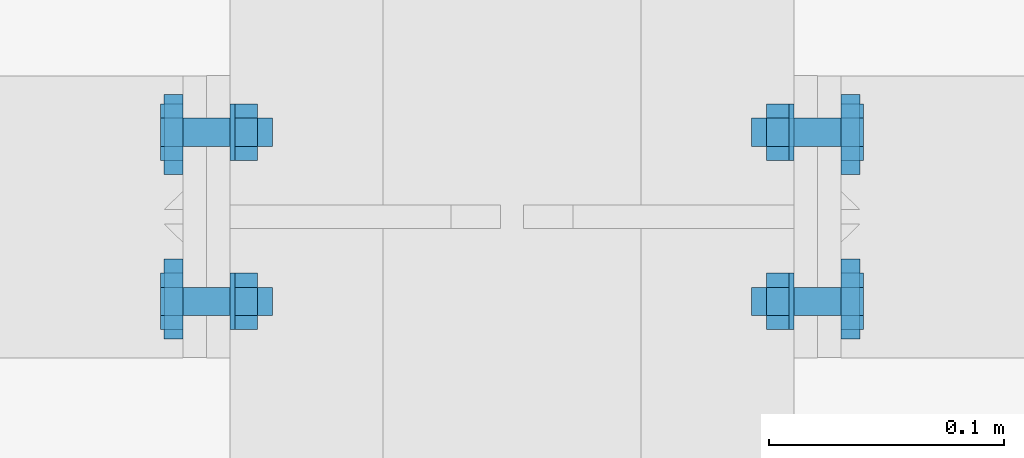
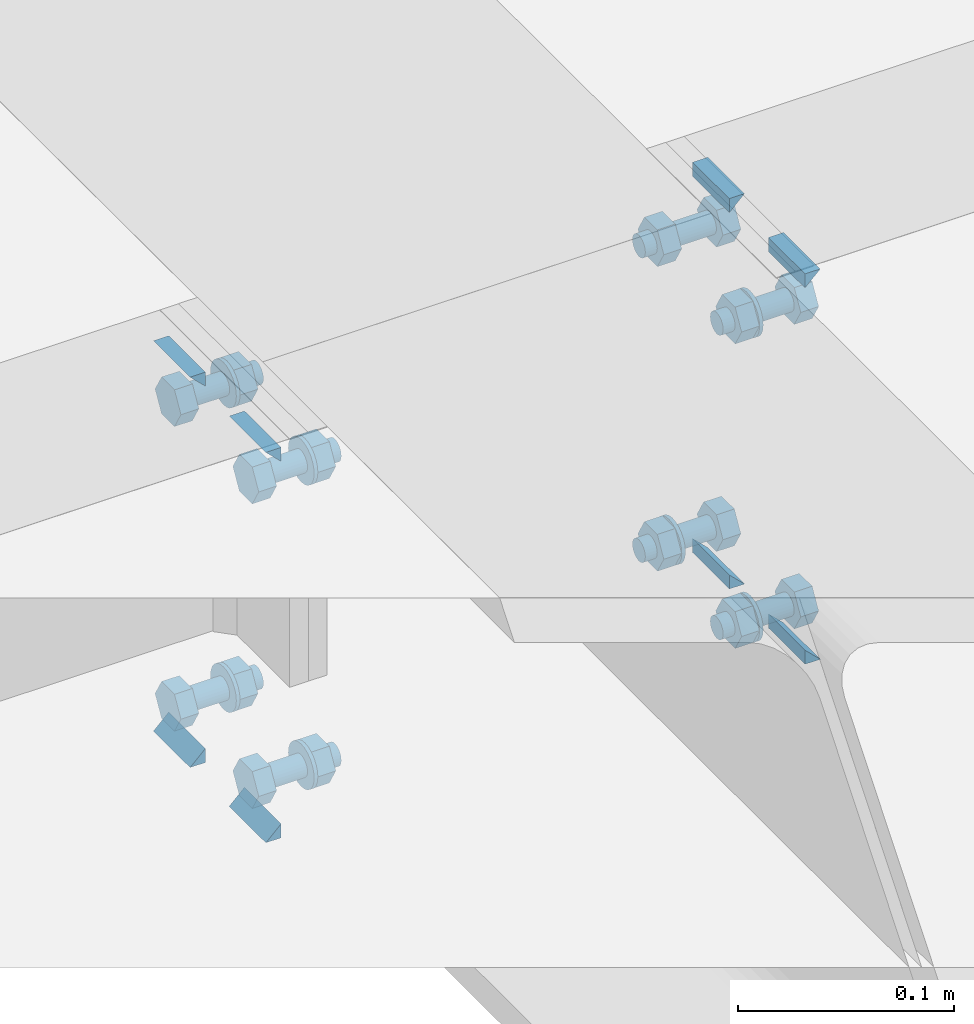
# One storey, part 31 of 66: 31 mechanical fasteners, 16 fasteners.
"""IFC4 building model written with IfcOpenShell, lengths in metres."""

from ifc_helpers import new_model, si_unit, frame, origin_with_axes, place, context, project, spatial, polyline, outline, extrude, type_object, element, save


model = new_model("IFC4")

# Units and contexts
model_context = context("Model", 3, precision=1e-05, world=origin_with_axes())
ifc_project = project(units=[si_unit("LENGTHUNIT", "METRE"), si_unit("AREAUNIT", "SQUARE_METRE"), si_unit("VOLUMEUNIT", "CUBIC_METRE"), si_unit("MASSUNIT", "GRAM", prefix="KILO"), si_unit("TIMEUNIT", "SECOND"), si_unit("PLANEANGLEUNIT", "RADIAN"), si_unit("SOLIDANGLEUNIT", "STERADIAN"), si_unit("THERMODYNAMICTEMPERATUREUNIT", "DEGREE_CELSIUS")], contexts=[model_context])

# Site, building, storey
placement_1 = place(None, origin_with_axes())
site = spatial("IfcSite", under=ifc_project, at=placement_1, Name="Italia", CompositionType="ELEMENT")
building = spatial("IfcBuilding", under=site, at=placement_1, Name="Uffici", CompositionType="ELEMENT")
storey_placement = place(None, frame((0.0, 0.0, 3.299999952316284), z_axis=(0.0, 0.0, 1.0), x_axis=(1.0, 0.0, 0.0)))
storey = spatial("IfcBuildingStorey", under=building, at=storey_placement, Name="Storey 1", CompositionType="ELEMENT", Elevation=3.299999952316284)

# Fasteners
fastener_type_1 = type_object("IfcFastenerType", Name="Collegamento -002_-001", PredefinedType="WELD")
placement_2 = place(placement_1, origin_with_axes())
fastener_1_placement = place(placement_2, origin_with_axes())
element("IfcFastener", 1, at=fastener_1_placement, inside=storey, type_object=fastener_type_1, Name="Collegamento -002_-001", context=model_context, shape_type="SweptSolid", body=[
    extrude(outline(polyline([(0.0, 0.0), (-0.00817347, 0.00792813), (0.0, 0.00792813), (0.0, 0.0)])), frame((3.06505, 1.77862, 3.28232), z_axis=(0.0, -1.0, 0.0), x_axis=(1.0, 0.0, 0.0)), (0.0, 0.0, 1.0), 0.0339999),
])
fastener_type_2 = type_object("IfcFastenerType", Name="Collegamento -002_-001", PredefinedType="WELD")
fastener_2_placement = place(placement_2, origin_with_axes())
element("IfcFastener", 2, at=fastener_2_placement, inside=storey, type_object=fastener_type_2, Name="Collegamento -002_-001", context=model_context, shape_type="SweptSolid", body=[
    extrude(outline(polyline([(0.0, 0.0), (0.00817347, -0.00792813), (0.0, -0.00792813), (0.0, 0.0)])), frame((3.06505, 1.74462, 3.07768), z_axis=(0.0, 1.0, 0.0), x_axis=(-1.0, 0.0, 0.0)), (0.0, 0.0, 1.0), 0.0339999),
])
fastener_type_3 = type_object("IfcFastenerType", Name="Collegamento -002_-001", PredefinedType="WELD")
fastener_3_placement = place(placement_2, origin_with_axes())
element("IfcFastener", 3, at=fastener_3_placement, inside=storey, type_object=fastener_type_3, Name="Collegamento -002_-001", context=model_context, shape_type="SweptSolid", body=[
    extrude(outline(polyline([(0.0, 0.0), (0.00817347, -0.00792813), (0.0, -0.00792813), (0.0, 0.0)])), frame((3.06505, 1.81472, 3.07768), z_axis=(0.0, 1.0, 0.0), x_axis=(-1.0, 0.0, 0.0)), (0.0, 0.0, 1.0), 0.0339999),
])
fastener_type_4 = type_object("IfcFastenerType", Name="Collegamento -002_-001", PredefinedType="WELD")
fastener_4_placement = place(placement_2, origin_with_axes())
element("IfcFastener", 4, at=fastener_4_placement, inside=storey, type_object=fastener_type_4, Name="Collegamento -002_-001", context=model_context, shape_type="SweptSolid", body=[
    extrude(outline(polyline([(0.0, 0.0), (-0.00817347, 0.00792813), (0.0, 0.00792813), (0.0, 0.0)])), frame((3.06505, 1.84872, 3.28232), z_axis=(0.0, -1.0, 0.0), x_axis=(1.0, 0.0, 0.0)), (0.0, 0.0, 1.0), 0.0339999),
])
fastener_type_5 = type_object("IfcFastenerType", Name="Collegamento -002_-001", PredefinedType="WELD")
fastener_5_placement = place(placement_2, origin_with_axes())
element("IfcFastener", 5, at=fastener_5_placement, inside=storey, type_object=fastener_type_5, Name="Collegamento -002_-001", context=model_context, shape_type="SweptSolid", body=[
    extrude(outline(polyline([(0.0, 0.0), (-0.00817347, 0.00792813), (0.0, 0.00792813), (0.0, 0.0)])), frame((3.06505, 1.77862, 3.28232), z_axis=(0.0, -1.0, 0.0), x_axis=(1.0, 0.0, 0.0)), (0.0, 0.0, 1.0), 0.0339999),
])
fastener_type_6 = type_object("IfcFastenerType", Name="Collegamento -002_-001", PredefinedType="WELD")
fastener_6_placement = place(placement_2, origin_with_axes())
element("IfcFastener", 6, at=fastener_6_placement, inside=storey, type_object=fastener_type_6, Name="Collegamento -002_-001", context=model_context, shape_type="SweptSolid", body=[
    extrude(outline(polyline([(0.0, 0.0), (0.00817347, -0.00792813), (0.0, -0.00792813), (0.0, 0.0)])), frame((3.06505, 1.74462, 3.07768), z_axis=(0.0, 1.0, 0.0), x_axis=(-1.0, 0.0, 0.0)), (0.0, 0.0, 1.0), 0.0339999),
])
fastener_type_7 = type_object("IfcFastenerType", Name="Collegamento -002_-001", PredefinedType="WELD")
fastener_7_placement = place(placement_2, origin_with_axes())
element("IfcFastener", 7, at=fastener_7_placement, inside=storey, type_object=fastener_type_7, Name="Collegamento -002_-001", context=model_context, shape_type="SweptSolid", body=[
    extrude(outline(polyline([(0.0, 0.0), (0.00817347, -0.00792813), (0.0, -0.00792813), (0.0, 0.0)])), frame((3.06505, 1.81472, 3.07768), z_axis=(0.0, 1.0, 0.0), x_axis=(-1.0, 0.0, 0.0)), (0.0, 0.0, 1.0), 0.0339999),
])
fastener_type_8 = type_object("IfcFastenerType", Name="Collegamento -002_-001", PredefinedType="WELD")
fastener_8_placement = place(placement_2, origin_with_axes())
element("IfcFastener", 8, at=fastener_8_placement, inside=storey, type_object=fastener_type_8, Name="Collegamento -002_-001", context=model_context, shape_type="SweptSolid", body=[
    extrude(outline(polyline([(0.0, 0.0), (-0.00817347, 0.00792813), (0.0, 0.00792813), (0.0, 0.0)])), frame((3.06505, 1.84872, 3.28232), z_axis=(0.0, -1.0, 0.0), x_axis=(1.0, 0.0, 0.0)), (0.0, 0.0, 1.0), 0.0339999),
])

# Mechanical fasteners
mechanical_fastener_type_1 = type_object("IfcMechanicalFastenerType", Name="Collegamento -002_-001", PredefinedType="BOLT")
mechanical_fastener_1_placement = place(placement_2, origin_with_axes())
element("IfcMechanicalFastener", 9, at=mechanical_fastener_1_placement, inside=storey, type_object=mechanical_fastener_type_1, Name="Collegamento -002_-001", NominalDiameter=0.0119999, context=model_context, shape_type="SweptSolid", body=[
    extrude(outline(polyline([(0.0, 0.0), (-0.0120001, 0.0), (-0.018, 0.0103924), (-0.0120001, 0.0207846), (0.0, 0.0207846), (0.00599992, 0.0103924), (0.0, 0.0)])), frame((3.065, 1.82667, 3.08361), z_axis=(-1.0, 0.0, 0.0), x_axis=(0.0, -1.0, 0.0)), (0.0, 0.0, 1.0), 0.00959992),
])
mechanical_fastener_type_2 = type_object("IfcMechanicalFastenerType", Name="Collegamento -002_-001", PredefinedType="BOLT")
mechanical_fastener_2_placement = place(placement_2, origin_with_axes())
element("IfcMechanicalFastener", 10, at=mechanical_fastener_2_placement, inside=storey, type_object=mechanical_fastener_type_2, Name="Collegamento -002_-001", NominalDiameter=0.012, context=model_context, shape_type="SweptSolid", body=[
    extrude(outline(polyline([(0.0, 0.0), (-0.000204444, -0.00155282), (-0.000803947, -0.00300002), (-0.00175738, -0.00424266), (-0.00300002, -0.00519609), (-0.0044471, -0.00579548), (-0.00600004, -0.00600004), (-0.00755298, -0.00579548), (-0.00900006, -0.00519609), (-0.0102427, -0.00424266), (-0.0111961, -0.00300002), (-0.0117956, -0.00155282), (-0.0120001, 0.0), (-0.0117956, 0.00155282), (-0.0111961, 0.00300002), (-0.0102427, 0.00424266), (-0.00900006, 0.00519609), (-0.00755298, 0.00579548), (-0.00600004, 0.00600004), (-0.0044471, 0.00579548), (-0.00300002, 0.00519609), (-0.00175738, 0.00424266), (-0.000803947, 0.00300002), (-0.000204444, 0.00155282), (0.0, 0.0)])), frame((3.103, 1.82667, 3.094), z_axis=(-1.0, 0.0, 0.0), x_axis=(0.0, -1.0, 0.0)), (0.0, 0.0, 1.0), 0.0379999),
])
mechanical_fastener_type_3 = type_object("IfcMechanicalFastenerType", Name="Collegamento -002_-001", PredefinedType="BOLT")
mechanical_fastener_3_placement = place(placement_2, origin_with_axes())
element("IfcMechanicalFastener", 11, at=mechanical_fastener_3_placement, inside=storey, type_object=mechanical_fastener_type_3, Name="Collegamento -002_-001", NominalDiameter=0.0119999, context=model_context, shape_type="SweptSolid", body=[
    extrude(outline(polyline([(0.0, 0.0), (-0.0120001, 0.0), (-0.018, 0.0103924), (-0.0120001, 0.0207846), (0.0, 0.0207846), (0.00599992, 0.0103924), (0.0, 0.0)])), frame((3.0966, 1.82667, 3.08361), z_axis=(-1.0, 0.0, 0.0), x_axis=(0.0, -1.0, 0.0)), (0.0, 0.0, 1.0), 0.00959992),
])
mechanical_fastener_type_4 = type_object("IfcMechanicalFastenerType", Name="Collegamento -002_-001", PredefinedType="BOLT")
mechanical_fastener_4_placement = place(placement_2, origin_with_axes())
element("IfcMechanicalFastener", 12, at=mechanical_fastener_4_placement, inside=storey, type_object=mechanical_fastener_type_4, Name="Collegamento -002_-001", NominalDiameter=0.024, context=model_context, shape_type="SweptSolid", body=[
    extrude(outline(polyline([(0.0, 0.0), (-0.000408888, -0.00310588), (-0.00160766, -0.00600004), (-0.00351465, -0.00848532), (-0.00599992, -0.0103922), (-0.00889409, -0.0115912), (-0.012, -0.0120001), (-0.0151058, -0.0115912), (-0.018, -0.0103922), (-0.0204853, -0.00848532), (-0.0223923, -0.00600004), (-0.023591, -0.00310588), (-0.0239999, 0.0), (-0.023591, 0.00310588), (-0.0223923, 0.00600004), (-0.0204853, 0.00848532), (-0.018, 0.0103922), (-0.0151058, 0.0115912), (-0.012, 0.0120001), (-0.00889409, 0.0115912), (-0.00599992, 0.0103922), (-0.00351465, 0.00848532), (-0.00160766, 0.00600004), (-0.000408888, 0.00310588), (0.0, 0.0)])), frame((3.087, 1.82067, 3.094), z_axis=(-1.0, 0.0, 0.0), x_axis=(0.0, -1.0, 0.0)), (0.0, 0.0, 1.0), 0.00200009),
])
mechanical_fastener_type_5 = type_object("IfcMechanicalFastenerType", Name="Collegamento -002_-001", PredefinedType="BOLT")
mechanical_fastener_5_placement = place(placement_2, origin_with_axes())
element("IfcMechanicalFastener", 13, at=mechanical_fastener_5_placement, inside=storey, type_object=mechanical_fastener_type_5, Name="Collegamento -002_-001", NominalDiameter=0.0119999, context=model_context, shape_type="SweptSolid", body=[
    extrude(outline(polyline([(0.0, 0.0), (-0.0120001, 0.0), (-0.018, 0.0103924), (-0.0120001, 0.0207846), (0.0, 0.0207846), (0.00599992, 0.0103924), (0.0, 0.0)])), frame((3.065, 1.75467, 3.08361), z_axis=(-1.0, 0.0, 0.0), x_axis=(0.0, -1.0, 0.0)), (0.0, 0.0, 1.0), 0.00959992),
])
mechanical_fastener_type_6 = type_object("IfcMechanicalFastenerType", Name="Collegamento -002_-001", PredefinedType="BOLT")
mechanical_fastener_6_placement = place(placement_2, origin_with_axes())
element("IfcMechanicalFastener", 14, at=mechanical_fastener_6_placement, inside=storey, type_object=mechanical_fastener_type_6, Name="Collegamento -002_-001", NominalDiameter=0.012, context=model_context, shape_type="SweptSolid", body=[
    extrude(outline(polyline([(0.0, 0.0), (-0.000204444, -0.00155282), (-0.000803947, -0.00300002), (-0.00175738, -0.00424266), (-0.00300002, -0.00519609), (-0.0044471, -0.00579548), (-0.00600004, -0.00600004), (-0.00755298, -0.00579548), (-0.00900006, -0.00519609), (-0.0102427, -0.00424266), (-0.0111961, -0.00300002), (-0.0117956, -0.00155282), (-0.0120001, 0.0), (-0.0117956, 0.00155282), (-0.0111961, 0.00300002), (-0.0102427, 0.00424266), (-0.00900006, 0.00519609), (-0.00755298, 0.00579548), (-0.00600004, 0.00600004), (-0.0044471, 0.00579548), (-0.00300002, 0.00519609), (-0.00175738, 0.00424266), (-0.000803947, 0.00300002), (-0.000204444, 0.00155282), (0.0, 0.0)])), frame((3.103, 1.75467, 3.094), z_axis=(-1.0, 0.0, 0.0), x_axis=(0.0, -1.0, 0.0)), (0.0, 0.0, 1.0), 0.0379999),
])
mechanical_fastener_type_7 = type_object("IfcMechanicalFastenerType", Name="Collegamento -002_-001", PredefinedType="BOLT")
mechanical_fastener_7_placement = place(placement_2, origin_with_axes())
element("IfcMechanicalFastener", 15, at=mechanical_fastener_7_placement, inside=storey, type_object=mechanical_fastener_type_7, Name="Collegamento -002_-001", NominalDiameter=0.0119999, context=model_context, shape_type="SweptSolid", body=[
    extrude(outline(polyline([(0.0, 0.0), (-0.0120001, 0.0), (-0.018, 0.0103924), (-0.0120001, 0.0207846), (0.0, 0.0207846), (0.00599992, 0.0103924), (0.0, 0.0)])), frame((3.0966, 1.75467, 3.08361), z_axis=(-1.0, 0.0, 0.0), x_axis=(0.0, -1.0, 0.0)), (0.0, 0.0, 1.0), 0.00959992),
])
mechanical_fastener_type_8 = type_object("IfcMechanicalFastenerType", Name="Collegamento -002_-001", PredefinedType="BOLT")
mechanical_fastener_8_placement = place(placement_2, origin_with_axes())
element("IfcMechanicalFastener", 16, at=mechanical_fastener_8_placement, inside=storey, type_object=mechanical_fastener_type_8, Name="Collegamento -002_-001", NominalDiameter=0.024, context=model_context, shape_type="SweptSolid", body=[
    extrude(outline(polyline([(0.0, 0.0), (-0.000408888, -0.00310588), (-0.00160766, -0.00600004), (-0.00351465, -0.00848532), (-0.00599992, -0.0103922), (-0.00889409, -0.0115912), (-0.012, -0.0120001), (-0.0151058, -0.0115912), (-0.018, -0.0103922), (-0.0204853, -0.00848532), (-0.0223923, -0.00600004), (-0.023591, -0.00310588), (-0.0239999, 0.0), (-0.023591, 0.00310588), (-0.0223923, 0.00600004), (-0.0204853, 0.00848532), (-0.018, 0.0103922), (-0.0151058, 0.0115912), (-0.012, 0.0120001), (-0.00889409, 0.0115912), (-0.00599992, 0.0103922), (-0.00351465, 0.00848532), (-0.00160766, 0.00600004), (-0.000408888, 0.00310588), (0.0, 0.0)])), frame((3.087, 1.74867, 3.094), z_axis=(-1.0, 0.0, 0.0), x_axis=(0.0, -1.0, 0.0)), (0.0, 0.0, 1.0), 0.00200009),
])
mechanical_fastener_type_9 = type_object("IfcMechanicalFastenerType", Name="Collegamento -002_-001", PredefinedType="BOLT")
mechanical_fastener_9_placement = place(placement_2, origin_with_axes())
element("IfcMechanicalFastener", 17, at=mechanical_fastener_9_placement, inside=storey, type_object=mechanical_fastener_type_9, Name="Collegamento -002_-001", NominalDiameter=0.0119999, context=model_context, shape_type="SweptSolid", body=[
    extrude(outline(polyline([(0.0, 0.0), (-0.0120001, 0.0), (-0.018, 0.0103922), (-0.0120001, 0.0207846), (0.0, 0.0207846), (0.00599992, 0.0103922), (0.0, 0.0)])), frame((3.065, 1.82667, 3.25561), z_axis=(-1.0, 0.0, 0.0), x_axis=(0.0, -1.0, 0.0)), (0.0, 0.0, 1.0), 0.00959992),
])
mechanical_fastener_type_10 = type_object("IfcMechanicalFastenerType", Name="Collegamento -002_-001", PredefinedType="BOLT")
mechanical_fastener_10_placement = place(placement_2, origin_with_axes())
element("IfcMechanicalFastener", 18, at=mechanical_fastener_10_placement, inside=storey, type_object=mechanical_fastener_type_10, Name="Collegamento -002_-001", NominalDiameter=0.012, context=model_context, shape_type="SweptSolid", body=[
    extrude(outline(polyline([(0.0, 0.0), (-0.000204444, -0.00155282), (-0.000803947, -0.00300002), (-0.00175738, -0.00424266), (-0.00300002, -0.00519609), (-0.0044471, -0.00579548), (-0.00600004, -0.00600004), (-0.00755298, -0.00579548), (-0.00900006, -0.00519609), (-0.0102427, -0.00424266), (-0.0111961, -0.00300002), (-0.0117956, -0.00155282), (-0.0120001, 0.0), (-0.0117956, 0.00155282), (-0.0111961, 0.00300002), (-0.0102427, 0.00424266), (-0.00900006, 0.00519609), (-0.00755298, 0.00579548), (-0.00600004, 0.00600004), (-0.0044471, 0.00579548), (-0.00300002, 0.00519609), (-0.00175738, 0.00424266), (-0.000803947, 0.00300002), (-0.000204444, 0.00155282), (0.0, 0.0)])), frame((3.103, 1.82667, 3.266), z_axis=(-1.0, 0.0, 0.0), x_axis=(0.0, -1.0, 0.0)), (0.0, 0.0, 1.0), 0.0379999),
])
mechanical_fastener_type_11 = type_object("IfcMechanicalFastenerType", Name="Collegamento -002_-001", PredefinedType="BOLT")
mechanical_fastener_11_placement = place(placement_2, origin_with_axes())
element("IfcMechanicalFastener", 19, at=mechanical_fastener_11_placement, inside=storey, type_object=mechanical_fastener_type_11, Name="Collegamento -002_-001", NominalDiameter=0.0119999, context=model_context, shape_type="SweptSolid", body=[
    extrude(outline(polyline([(0.0, 0.0), (-0.0120001, 0.0), (-0.018, 0.0103922), (-0.0120001, 0.0207846), (0.0, 0.0207846), (0.00599992, 0.0103922), (0.0, 0.0)])), frame((3.0966, 1.82667, 3.25561), z_axis=(-1.0, 0.0, 0.0), x_axis=(0.0, -1.0, 0.0)), (0.0, 0.0, 1.0), 0.00959992),
])
mechanical_fastener_type_12 = type_object("IfcMechanicalFastenerType", Name="Collegamento -002_-001", PredefinedType="BOLT")
mechanical_fastener_12_placement = place(placement_2, origin_with_axes())
element("IfcMechanicalFastener", 20, at=mechanical_fastener_12_placement, inside=storey, type_object=mechanical_fastener_type_12, Name="Collegamento -002_-001", NominalDiameter=0.024, context=model_context, shape_type="SweptSolid", body=[
    extrude(outline(polyline([(0.0, 0.0), (-0.000408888, -0.00310588), (-0.00160766, -0.00600004), (-0.00351465, -0.00848532), (-0.00599992, -0.0103922), (-0.00889409, -0.0115912), (-0.012, -0.0120001), (-0.0151058, -0.0115912), (-0.018, -0.0103922), (-0.0204853, -0.00848532), (-0.0223923, -0.00600004), (-0.023591, -0.00310588), (-0.0239999, 0.0), (-0.023591, 0.00310588), (-0.0223923, 0.00600004), (-0.0204853, 0.00848532), (-0.018, 0.0103922), (-0.0151058, 0.0115912), (-0.012, 0.0120001), (-0.00889409, 0.0115912), (-0.00599992, 0.0103922), (-0.00351465, 0.00848532), (-0.00160766, 0.00600004), (-0.000408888, 0.00310588), (0.0, 0.0)])), frame((3.087, 1.82067, 3.266), z_axis=(-1.0, 0.0, 0.0), x_axis=(0.0, -1.0, 0.0)), (0.0, 0.0, 1.0), 0.00200009),
])
mechanical_fastener_type_13 = type_object("IfcMechanicalFastenerType", Name="Collegamento -002_-001", PredefinedType="BOLT")
mechanical_fastener_13_placement = place(placement_2, origin_with_axes())
element("IfcMechanicalFastener", 21, at=mechanical_fastener_13_placement, inside=storey, type_object=mechanical_fastener_type_13, Name="Collegamento -002_-001", NominalDiameter=0.0119999, context=model_context, shape_type="SweptSolid", body=[
    extrude(outline(polyline([(0.0, 0.0), (-0.0120001, 0.0), (-0.018, 0.0103922), (-0.0120001, 0.0207846), (0.0, 0.0207846), (0.00599992, 0.0103922), (0.0, 0.0)])), frame((3.065, 1.75467, 3.25561), z_axis=(-1.0, 0.0, 0.0), x_axis=(0.0, -1.0, 0.0)), (0.0, 0.0, 1.0), 0.00959992),
])
mechanical_fastener_type_14 = type_object("IfcMechanicalFastenerType", Name="Collegamento -002_-001", PredefinedType="BOLT")
mechanical_fastener_14_placement = place(placement_2, origin_with_axes())
element("IfcMechanicalFastener", 22, at=mechanical_fastener_14_placement, inside=storey, type_object=mechanical_fastener_type_14, Name="Collegamento -002_-001", NominalDiameter=0.012, context=model_context, shape_type="SweptSolid", body=[
    extrude(outline(polyline([(0.0, 0.0), (-0.000204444, -0.00155282), (-0.000803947, -0.00300002), (-0.00175738, -0.00424266), (-0.00300002, -0.00519609), (-0.0044471, -0.00579548), (-0.00600004, -0.00600004), (-0.00755298, -0.00579548), (-0.00900006, -0.00519609), (-0.0102427, -0.00424266), (-0.0111961, -0.00300002), (-0.0117956, -0.00155282), (-0.0120001, 0.0), (-0.0117956, 0.00155282), (-0.0111961, 0.00300002), (-0.0102427, 0.00424266), (-0.00900006, 0.00519609), (-0.00755298, 0.00579548), (-0.00600004, 0.00600004), (-0.0044471, 0.00579548), (-0.00300002, 0.00519609), (-0.00175738, 0.00424266), (-0.000803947, 0.00300002), (-0.000204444, 0.00155282), (0.0, 0.0)])), frame((3.103, 1.75467, 3.266), z_axis=(-1.0, 0.0, 0.0), x_axis=(0.0, -1.0, 0.0)), (0.0, 0.0, 1.0), 0.0379999),
])
mechanical_fastener_type_15 = type_object("IfcMechanicalFastenerType", Name="Collegamento -002_-001", PredefinedType="BOLT")
mechanical_fastener_15_placement = place(placement_2, origin_with_axes())
element("IfcMechanicalFastener", 23, at=mechanical_fastener_15_placement, inside=storey, type_object=mechanical_fastener_type_15, Name="Collegamento -002_-001", NominalDiameter=0.0119999, context=model_context, shape_type="SweptSolid", body=[
    extrude(outline(polyline([(0.0, 0.0), (-0.0120001, 0.0), (-0.018, 0.0103922), (-0.0120001, 0.0207846), (0.0, 0.0207846), (0.00599992, 0.0103922), (0.0, 0.0)])), frame((3.0966, 1.75467, 3.25561), z_axis=(-1.0, 0.0, 0.0), x_axis=(0.0, -1.0, 0.0)), (0.0, 0.0, 1.0), 0.00959992),
])
mechanical_fastener_type_16 = type_object("IfcMechanicalFastenerType", Name="Collegamento -002_-001", PredefinedType="BOLT")
mechanical_fastener_16_placement = place(placement_2, origin_with_axes())
element("IfcMechanicalFastener", 24, at=mechanical_fastener_16_placement, inside=storey, type_object=mechanical_fastener_type_16, Name="Collegamento -002_-001", NominalDiameter=0.024, context=model_context, shape_type="SweptSolid", body=[
    extrude(outline(polyline([(0.0, 0.0), (-0.000408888, -0.00310588), (-0.00160766, -0.00600004), (-0.00351465, -0.00848532), (-0.00599992, -0.0103922), (-0.00889409, -0.0115912), (-0.012, -0.0120001), (-0.0151058, -0.0115912), (-0.018, -0.0103922), (-0.0204853, -0.00848532), (-0.0223923, -0.00600004), (-0.023591, -0.00310588), (-0.0239999, 0.0), (-0.023591, 0.00310588), (-0.0223923, 0.00600004), (-0.0204853, 0.00848532), (-0.018, 0.0103922), (-0.0151058, 0.0115912), (-0.012, 0.0120001), (-0.00889409, 0.0115912), (-0.00599992, 0.0103922), (-0.00351465, 0.00848532), (-0.00160766, 0.00600004), (-0.000408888, 0.00310588), (0.0, 0.0)])), frame((3.087, 1.74867, 3.266), z_axis=(-1.0, 0.0, 0.0), x_axis=(0.0, -1.0, 0.0)), (0.0, 0.0, 1.0), 0.00200009),
])

# Fasteners
fastener_type_9 = type_object("IfcFastenerType", Name="Collegamento -002_-003", PredefinedType="WELD")
fastener_9_placement = place(placement_2, origin_with_axes())
element("IfcFastener", 25, at=fastener_9_placement, inside=storey, type_object=fastener_type_9, Name="Collegamento -002_-003", context=model_context, shape_type="SweptSolid", body=[
    extrude(outline(polyline([(0.0, 0.0), (-0.00817347, 0.00792813), (0.0, 0.00792813), (0.0, 0.0)])), frame((3.34495, 1.74462, 3.28232), z_axis=(0.0, 1.0, 0.0), x_axis=(-1.0, 0.0, 0.0)), (0.0, 0.0, 1.0), 0.0339999),
])
fastener_type_10 = type_object("IfcFastenerType", Name="Collegamento -002_-003", PredefinedType="WELD")
fastener_10_placement = place(placement_2, origin_with_axes())
element("IfcFastener", 26, at=fastener_10_placement, inside=storey, type_object=fastener_type_10, Name="Collegamento -002_-003", context=model_context, shape_type="SweptSolid", body=[
    extrude(outline(polyline([(0.0, 0.0), (0.00817347, -0.00792813), (0.0, -0.00792813), (0.0, 0.0)])), frame((3.34495, 1.77862, 3.07768), z_axis=(0.0, -1.0, 0.0), x_axis=(1.0, 0.0, 0.0)), (0.0, 0.0, 1.0), 0.0339999),
])
fastener_type_11 = type_object("IfcFastenerType", Name="Collegamento -002_-003", PredefinedType="WELD")
fastener_11_placement = place(placement_2, origin_with_axes())
element("IfcFastener", 27, at=fastener_11_placement, inside=storey, type_object=fastener_type_11, Name="Collegamento -002_-003", context=model_context, shape_type="SweptSolid", body=[
    extrude(outline(polyline([(0.0, 0.0), (0.00817347, -0.00792813), (0.0, -0.00792813), (0.0, 0.0)])), frame((3.34495, 1.84872, 3.07768), z_axis=(0.0, -1.0, 0.0), x_axis=(1.0, 0.0, 0.0)), (0.0, 0.0, 1.0), 0.0339999),
])
fastener_type_12 = type_object("IfcFastenerType", Name="Collegamento -002_-003", PredefinedType="WELD")
fastener_12_placement = place(placement_2, origin_with_axes())
element("IfcFastener", 28, at=fastener_12_placement, inside=storey, type_object=fastener_type_12, Name="Collegamento -002_-003", context=model_context, shape_type="SweptSolid", body=[
    extrude(outline(polyline([(0.0, 0.0), (-0.00817347, 0.00792813), (0.0, 0.00792813), (0.0, 0.0)])), frame((3.34495, 1.81472, 3.28232), z_axis=(0.0, 1.0, 0.0), x_axis=(-1.0, 0.0, 0.0)), (0.0, 0.0, 1.0), 0.0339999),
])
fastener_type_13 = type_object("IfcFastenerType", Name="Collegamento -002_-003", PredefinedType="WELD")
fastener_13_placement = place(placement_2, origin_with_axes())
element("IfcFastener", 29, at=fastener_13_placement, inside=storey, type_object=fastener_type_13, Name="Collegamento -002_-003", context=model_context, shape_type="SweptSolid", body=[
    extrude(outline(polyline([(0.0, 0.0), (-0.00817347, 0.00792813), (0.0, 0.00792813), (0.0, 0.0)])), frame((3.34495, 1.74462, 3.28232), z_axis=(0.0, 1.0, 0.0), x_axis=(-1.0, 0.0, 0.0)), (0.0, 0.0, 1.0), 0.0339999),
])
fastener_type_14 = type_object("IfcFastenerType", Name="Collegamento -002_-003", PredefinedType="WELD")
fastener_14_placement = place(placement_2, origin_with_axes())
element("IfcFastener", 30, at=fastener_14_placement, inside=storey, type_object=fastener_type_14, Name="Collegamento -002_-003", context=model_context, shape_type="SweptSolid", body=[
    extrude(outline(polyline([(0.0, 0.0), (0.00817347, -0.00792813), (0.0, -0.00792813), (0.0, 0.0)])), frame((3.34495, 1.77862, 3.07768), z_axis=(0.0, -1.0, 0.0), x_axis=(1.0, 0.0, 0.0)), (0.0, 0.0, 1.0), 0.0339999),
])
fastener_type_15 = type_object("IfcFastenerType", Name="Collegamento -002_-003", PredefinedType="WELD")
fastener_15_placement = place(placement_2, origin_with_axes())
element("IfcFastener", 31, at=fastener_15_placement, inside=storey, type_object=fastener_type_15, Name="Collegamento -002_-003", context=model_context, shape_type="SweptSolid", body=[
    extrude(outline(polyline([(0.0, 0.0), (0.00817347, -0.00792813), (0.0, -0.00792813), (0.0, 0.0)])), frame((3.34495, 1.84872, 3.07768), z_axis=(0.0, -1.0, 0.0), x_axis=(1.0, 0.0, 0.0)), (0.0, 0.0, 1.0), 0.0339999),
])
fastener_type_16 = type_object("IfcFastenerType", Name="Collegamento -002_-003", PredefinedType="WELD")
fastener_16_placement = place(placement_2, origin_with_axes())
element("IfcFastener", 32, at=fastener_16_placement, inside=storey, type_object=fastener_type_16, Name="Collegamento -002_-003", context=model_context, shape_type="SweptSolid", body=[
    extrude(outline(polyline([(0.0, 0.0), (-0.00817347, 0.00792813), (0.0, 0.00792813), (0.0, 0.0)])), frame((3.34495, 1.81472, 3.28232), z_axis=(0.0, 1.0, 0.0), x_axis=(-1.0, 0.0, 0.0)), (0.0, 0.0, 1.0), 0.0339999),
])

# Mechanical fasteners
mechanical_fastener_type_17 = type_object("IfcMechanicalFastenerType", Name="Collegamento -002_-003", PredefinedType="BOLT")
mechanical_fastener_17_placement = place(placement_2, origin_with_axes())
element("IfcMechanicalFastener", 33, at=mechanical_fastener_17_placement, inside=storey, type_object=mechanical_fastener_type_17, Name="Collegamento -002_-003", NominalDiameter=0.0119999, context=model_context, shape_type="SweptSolid", body=[
    extrude(outline(polyline([(0.0, 0.0), (-0.0120001, 0.0), (-0.018, 0.0103924), (-0.0120001, 0.0207846), (0.0, 0.0207846), (0.00599992, 0.0103924), (0.0, 0.0)])), frame((3.345, 1.76667, 3.08361), z_axis=(1.0, 0.0, 0.0), x_axis=(0.0, 1.0, 0.0)), (0.0, 0.0, 1.0), 0.00959992),
])
mechanical_fastener_type_18 = type_object("IfcMechanicalFastenerType", Name="Collegamento -002_-003", PredefinedType="BOLT")
mechanical_fastener_18_placement = place(placement_2, origin_with_axes())
element("IfcMechanicalFastener", 34, at=mechanical_fastener_18_placement, inside=storey, type_object=mechanical_fastener_type_18, Name="Collegamento -002_-003", NominalDiameter=0.012, context=model_context, shape_type="SweptSolid", body=[
    extrude(outline(polyline([(0.0, 0.0), (-0.000204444, -0.00155282), (-0.000803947, -0.00300002), (-0.00175738, -0.00424266), (-0.00300002, -0.00519609), (-0.0044471, -0.00579548), (-0.00600004, -0.00600004), (-0.00755298, -0.00579548), (-0.00900006, -0.00519609), (-0.0102427, -0.00424266), (-0.0111961, -0.00300002), (-0.0117956, -0.00155282), (-0.0120001, 0.0), (-0.0117956, 0.00155282), (-0.0111961, 0.00300002), (-0.0102427, 0.00424266), (-0.00900006, 0.00519609), (-0.00755298, 0.00579548), (-0.00600004, 0.00600004), (-0.0044471, 0.00579548), (-0.00300002, 0.00519609), (-0.00175738, 0.00424266), (-0.000803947, 0.00300002), (-0.000204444, 0.00155282), (0.0, 0.0)])), frame((3.307, 1.76667, 3.094), z_axis=(1.0, 0.0, 0.0), x_axis=(0.0, 1.0, 0.0)), (0.0, 0.0, 1.0), 0.0379999),
])
mechanical_fastener_type_19 = type_object("IfcMechanicalFastenerType", Name="Collegamento -002_-003", PredefinedType="BOLT")
mechanical_fastener_19_placement = place(placement_2, origin_with_axes())
element("IfcMechanicalFastener", 35, at=mechanical_fastener_19_placement, inside=storey, type_object=mechanical_fastener_type_19, Name="Collegamento -002_-003", NominalDiameter=0.0119999, context=model_context, shape_type="SweptSolid", body=[
    extrude(outline(polyline([(0.0, 0.0), (-0.0120001, 0.0), (-0.018, 0.0103924), (-0.0120001, 0.0207846), (0.0, 0.0207846), (0.00599992, 0.0103924), (0.0, 0.0)])), frame((3.3134, 1.76667, 3.08361), z_axis=(1.0, 0.0, 0.0), x_axis=(0.0, 1.0, 0.0)), (0.0, 0.0, 1.0), 0.00959992),
])
mechanical_fastener_type_20 = type_object("IfcMechanicalFastenerType", Name="Collegamento -002_-003", PredefinedType="BOLT")
mechanical_fastener_20_placement = place(placement_2, origin_with_axes())
element("IfcMechanicalFastener", 36, at=mechanical_fastener_20_placement, inside=storey, type_object=mechanical_fastener_type_20, Name="Collegamento -002_-003", NominalDiameter=0.024, context=model_context, shape_type="SweptSolid", body=[
    extrude(outline(polyline([(0.0, 0.0), (-0.000408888, -0.00310588), (-0.00160766, -0.00600004), (-0.00351465, -0.00848532), (-0.00599992, -0.0103922), (-0.00889409, -0.0115912), (-0.012, -0.0120001), (-0.0151058, -0.0115912), (-0.018, -0.0103922), (-0.0204853, -0.00848532), (-0.0223923, -0.00600004), (-0.023591, -0.00310588), (-0.0239999, 0.0), (-0.023591, 0.00310588), (-0.0223923, 0.00600004), (-0.0204853, 0.00848532), (-0.018, 0.0103922), (-0.0151058, 0.0115912), (-0.012, 0.0120001), (-0.00889409, 0.0115912), (-0.00599992, 0.0103922), (-0.00351465, 0.00848532), (-0.00160766, 0.00600004), (-0.000408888, 0.00310588), (0.0, 0.0)])), frame((3.323, 1.77267, 3.094), z_axis=(1.0, 0.0, 0.0), x_axis=(0.0, 1.0, 0.0)), (0.0, 0.0, 1.0), 0.00200009),
])
mechanical_fastener_type_21 = type_object("IfcMechanicalFastenerType", Name="Collegamento -002_-003", PredefinedType="BOLT")
mechanical_fastener_21_placement = place(placement_2, origin_with_axes())
element("IfcMechanicalFastener", 37, at=mechanical_fastener_21_placement, inside=storey, type_object=mechanical_fastener_type_21, Name="Collegamento -002_-003", NominalDiameter=0.0119999, context=model_context, shape_type="SweptSolid", body=[
    extrude(outline(polyline([(0.0, 0.0), (-0.0120001, 0.0), (-0.018, 0.0103924), (-0.0120001, 0.0207846), (0.0, 0.0207846), (0.00599992, 0.0103924), (0.0, 0.0)])), frame((3.345, 1.83867, 3.08361), z_axis=(1.0, 0.0, 0.0), x_axis=(0.0, 1.0, 0.0)), (0.0, 0.0, 1.0), 0.00959992),
])
mechanical_fastener_type_22 = type_object("IfcMechanicalFastenerType", Name="Collegamento -002_-003", PredefinedType="BOLT")
mechanical_fastener_22_placement = place(placement_2, origin_with_axes())
element("IfcMechanicalFastener", 38, at=mechanical_fastener_22_placement, inside=storey, type_object=mechanical_fastener_type_22, Name="Collegamento -002_-003", NominalDiameter=0.012, context=model_context, shape_type="SweptSolid", body=[
    extrude(outline(polyline([(0.0, 0.0), (-0.000204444, -0.00155282), (-0.000803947, -0.00300002), (-0.00175738, -0.00424266), (-0.00300002, -0.00519609), (-0.0044471, -0.00579548), (-0.00600004, -0.00600004), (-0.00755298, -0.00579548), (-0.00900006, -0.00519609), (-0.0102427, -0.00424266), (-0.0111961, -0.00300002), (-0.0117956, -0.00155282), (-0.0120001, 0.0), (-0.0117956, 0.00155282), (-0.0111961, 0.00300002), (-0.0102427, 0.00424266), (-0.00900006, 0.00519609), (-0.00755298, 0.00579548), (-0.00600004, 0.00600004), (-0.0044471, 0.00579548), (-0.00300002, 0.00519609), (-0.00175738, 0.00424266), (-0.000803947, 0.00300002), (-0.000204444, 0.00155282), (0.0, 0.0)])), frame((3.307, 1.83867, 3.094), z_axis=(1.0, 0.0, 0.0), x_axis=(0.0, 1.0, 0.0)), (0.0, 0.0, 1.0), 0.0379999),
])
mechanical_fastener_type_23 = type_object("IfcMechanicalFastenerType", Name="Collegamento -002_-003", PredefinedType="BOLT")
mechanical_fastener_23_placement = place(placement_2, origin_with_axes())
element("IfcMechanicalFastener", 39, at=mechanical_fastener_23_placement, inside=storey, type_object=mechanical_fastener_type_23, Name="Collegamento -002_-003", NominalDiameter=0.0119999, context=model_context, shape_type="SweptSolid", body=[
    extrude(outline(polyline([(0.0, 0.0), (-0.0120001, 0.0), (-0.018, 0.0103924), (-0.0120001, 0.0207846), (0.0, 0.0207846), (0.00599992, 0.0103924), (0.0, 0.0)])), frame((3.3134, 1.83867, 3.08361), z_axis=(1.0, 0.0, 0.0), x_axis=(0.0, 1.0, 0.0)), (0.0, 0.0, 1.0), 0.00959992),
])
mechanical_fastener_type_24 = type_object("IfcMechanicalFastenerType", Name="Collegamento -002_-003", PredefinedType="BOLT")
mechanical_fastener_24_placement = place(placement_2, origin_with_axes())
element("IfcMechanicalFastener", 40, at=mechanical_fastener_24_placement, inside=storey, type_object=mechanical_fastener_type_24, Name="Collegamento -002_-003", NominalDiameter=0.024, context=model_context, shape_type="SweptSolid", body=[
    extrude(outline(polyline([(0.0, 0.0), (-0.000408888, -0.00310588), (-0.00160766, -0.00600004), (-0.00351465, -0.00848532), (-0.00599992, -0.0103922), (-0.00889409, -0.0115912), (-0.012, -0.0120001), (-0.0151058, -0.0115912), (-0.018, -0.0103922), (-0.0204853, -0.00848532), (-0.0223923, -0.00600004), (-0.023591, -0.00310588), (-0.0239999, 0.0), (-0.023591, 0.00310588), (-0.0223923, 0.00600004), (-0.0204853, 0.00848532), (-0.018, 0.0103922), (-0.0151058, 0.0115912), (-0.012, 0.0120001), (-0.00889409, 0.0115912), (-0.00599992, 0.0103922), (-0.00351465, 0.00848532), (-0.00160766, 0.00600004), (-0.000408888, 0.00310588), (0.0, 0.0)])), frame((3.323, 1.84467, 3.094), z_axis=(1.0, 0.0, 0.0), x_axis=(0.0, 1.0, 0.0)), (0.0, 0.0, 1.0), 0.00200009),
])
mechanical_fastener_type_25 = type_object("IfcMechanicalFastenerType", Name="Collegamento -002_-003", PredefinedType="BOLT")
mechanical_fastener_25_placement = place(placement_2, origin_with_axes())
element("IfcMechanicalFastener", 41, at=mechanical_fastener_25_placement, inside=storey, type_object=mechanical_fastener_type_25, Name="Collegamento -002_-003", NominalDiameter=0.0119999, context=model_context, shape_type="SweptSolid", body=[
    extrude(outline(polyline([(0.0, 0.0), (-0.0120001, 0.0), (-0.018, 0.0103922), (-0.0120001, 0.0207846), (0.0, 0.0207846), (0.00599992, 0.0103922), (0.0, 0.0)])), frame((3.345, 1.76667, 3.25561), z_axis=(1.0, 0.0, 0.0), x_axis=(0.0, 1.0, 0.0)), (0.0, 0.0, 1.0), 0.00959992),
])
mechanical_fastener_type_26 = type_object("IfcMechanicalFastenerType", Name="Collegamento -002_-003", PredefinedType="BOLT")
mechanical_fastener_26_placement = place(placement_2, origin_with_axes())
element("IfcMechanicalFastener", 42, at=mechanical_fastener_26_placement, inside=storey, type_object=mechanical_fastener_type_26, Name="Collegamento -002_-003", NominalDiameter=0.012, context=model_context, shape_type="SweptSolid", body=[
    extrude(outline(polyline([(0.0, 0.0), (-0.000204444, -0.00155282), (-0.000803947, -0.00300002), (-0.00175738, -0.00424266), (-0.00300002, -0.00519609), (-0.0044471, -0.00579548), (-0.00600004, -0.00600004), (-0.00755298, -0.00579548), (-0.00900006, -0.00519609), (-0.0102427, -0.00424266), (-0.0111961, -0.00300002), (-0.0117956, -0.00155282), (-0.0120001, 0.0), (-0.0117956, 0.00155282), (-0.0111961, 0.00300002), (-0.0102427, 0.00424266), (-0.00900006, 0.00519609), (-0.00755298, 0.00579548), (-0.00600004, 0.00600004), (-0.0044471, 0.00579548), (-0.00300002, 0.00519609), (-0.00175738, 0.00424266), (-0.000803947, 0.00300002), (-0.000204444, 0.00155282), (0.0, 0.0)])), frame((3.307, 1.76667, 3.266), z_axis=(1.0, 0.0, 0.0), x_axis=(0.0, 1.0, 0.0)), (0.0, 0.0, 1.0), 0.0379999),
])
mechanical_fastener_type_27 = type_object("IfcMechanicalFastenerType", Name="Collegamento -002_-003", PredefinedType="BOLT")
mechanical_fastener_27_placement = place(placement_2, origin_with_axes())
element("IfcMechanicalFastener", 43, at=mechanical_fastener_27_placement, inside=storey, type_object=mechanical_fastener_type_27, Name="Collegamento -002_-003", NominalDiameter=0.0119999, context=model_context, shape_type="SweptSolid", body=[
    extrude(outline(polyline([(0.0, 0.0), (-0.0120001, 0.0), (-0.018, 0.0103922), (-0.0120001, 0.0207846), (0.0, 0.0207846), (0.00599992, 0.0103922), (0.0, 0.0)])), frame((3.3134, 1.76667, 3.25561), z_axis=(1.0, 0.0, 0.0), x_axis=(0.0, 1.0, 0.0)), (0.0, 0.0, 1.0), 0.00959992),
])
mechanical_fastener_type_28 = type_object("IfcMechanicalFastenerType", Name="Collegamento -002_-003", PredefinedType="BOLT")
mechanical_fastener_28_placement = place(placement_2, origin_with_axes())
element("IfcMechanicalFastener", 44, at=mechanical_fastener_28_placement, inside=storey, type_object=mechanical_fastener_type_28, Name="Collegamento -002_-003", NominalDiameter=0.024, context=model_context, shape_type="SweptSolid", body=[
    extrude(outline(polyline([(0.0, 0.0), (-0.000408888, -0.00310588), (-0.00160766, -0.00600004), (-0.00351465, -0.00848532), (-0.00599992, -0.0103922), (-0.00889409, -0.0115912), (-0.012, -0.0120001), (-0.0151058, -0.0115912), (-0.018, -0.0103922), (-0.0204853, -0.00848532), (-0.0223923, -0.00600004), (-0.023591, -0.00310588), (-0.0239999, 0.0), (-0.023591, 0.00310588), (-0.0223923, 0.00600004), (-0.0204853, 0.00848532), (-0.018, 0.0103922), (-0.0151058, 0.0115912), (-0.012, 0.0120001), (-0.00889409, 0.0115912), (-0.00599992, 0.0103922), (-0.00351465, 0.00848532), (-0.00160766, 0.00600004), (-0.000408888, 0.00310588), (0.0, 0.0)])), frame((3.323, 1.77267, 3.266), z_axis=(1.0, 0.0, 0.0), x_axis=(0.0, 1.0, 0.0)), (0.0, 0.0, 1.0), 0.00200009),
])
mechanical_fastener_type_29 = type_object("IfcMechanicalFastenerType", Name="Collegamento -002_-003", PredefinedType="BOLT")
mechanical_fastener_29_placement = place(placement_2, origin_with_axes())
element("IfcMechanicalFastener", 45, at=mechanical_fastener_29_placement, inside=storey, type_object=mechanical_fastener_type_29, Name="Collegamento -002_-003", NominalDiameter=0.0119999, context=model_context, shape_type="SweptSolid", body=[
    extrude(outline(polyline([(0.0, 0.0), (-0.0120001, 0.0), (-0.018, 0.0103922), (-0.0120001, 0.0207846), (0.0, 0.0207846), (0.00599992, 0.0103922), (0.0, 0.0)])), frame((3.345, 1.83867, 3.25561), z_axis=(1.0, 0.0, 0.0), x_axis=(0.0, 1.0, 0.0)), (0.0, 0.0, 1.0), 0.00959992),
])
mechanical_fastener_type_30 = type_object("IfcMechanicalFastenerType", Name="Collegamento -002_-003", PredefinedType="BOLT")
mechanical_fastener_30_placement = place(placement_2, origin_with_axes())
element("IfcMechanicalFastener", 46, at=mechanical_fastener_30_placement, inside=storey, type_object=mechanical_fastener_type_30, Name="Collegamento -002_-003", NominalDiameter=0.012, context=model_context, shape_type="SweptSolid", body=[
    extrude(outline(polyline([(0.0, 0.0), (-0.000204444, -0.00155282), (-0.000803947, -0.00300002), (-0.00175738, -0.00424266), (-0.00300002, -0.00519609), (-0.0044471, -0.00579548), (-0.00600004, -0.00600004), (-0.00755298, -0.00579548), (-0.00900006, -0.00519609), (-0.0102427, -0.00424266), (-0.0111961, -0.00300002), (-0.0117956, -0.00155282), (-0.0120001, 0.0), (-0.0117956, 0.00155282), (-0.0111961, 0.00300002), (-0.0102427, 0.00424266), (-0.00900006, 0.00519609), (-0.00755298, 0.00579548), (-0.00600004, 0.00600004), (-0.0044471, 0.00579548), (-0.00300002, 0.00519609), (-0.00175738, 0.00424266), (-0.000803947, 0.00300002), (-0.000204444, 0.00155282), (0.0, 0.0)])), frame((3.307, 1.83867, 3.266), z_axis=(1.0, 0.0, 0.0), x_axis=(0.0, 1.0, 0.0)), (0.0, 0.0, 1.0), 0.0379999),
])
mechanical_fastener_type_31 = type_object("IfcMechanicalFastenerType", Name="Collegamento -002_-003", PredefinedType="BOLT")
mechanical_fastener_31_placement = place(placement_2, origin_with_axes())
element("IfcMechanicalFastener", 47, at=mechanical_fastener_31_placement, inside=storey, type_object=mechanical_fastener_type_31, Name="Collegamento -002_-003", NominalDiameter=0.0119999, context=model_context, shape_type="SweptSolid", body=[
    extrude(outline(polyline([(0.0, 0.0), (-0.0120001, 0.0), (-0.018, 0.0103922), (-0.0120001, 0.0207846), (0.0, 0.0207846), (0.00599992, 0.0103922), (0.0, 0.0)])), frame((3.3134, 1.83867, 3.25561), z_axis=(1.0, 0.0, 0.0), x_axis=(0.0, 1.0, 0.0)), (0.0, 0.0, 1.0), 0.00959992),
])

save(model, "model.ifc")
